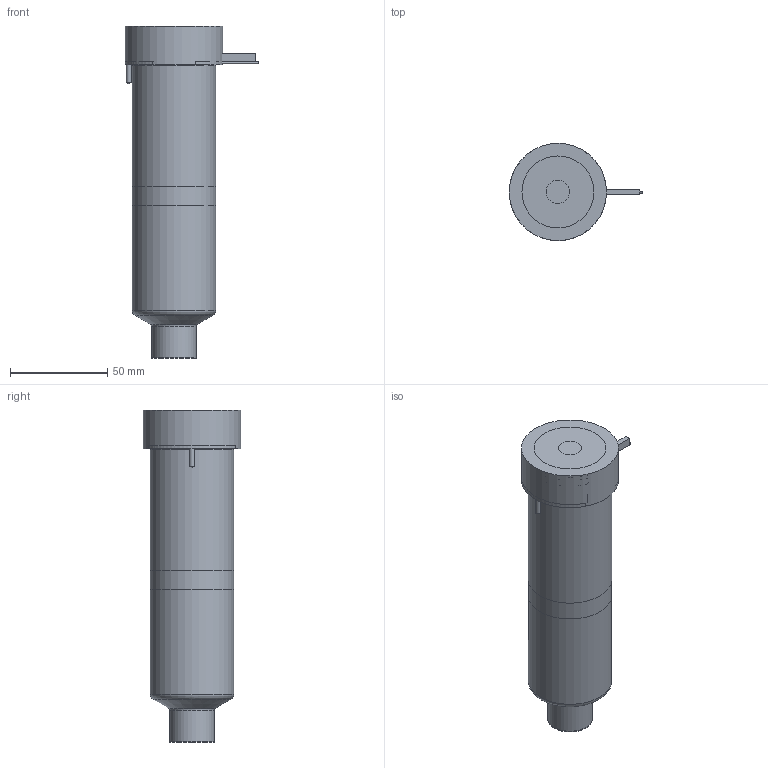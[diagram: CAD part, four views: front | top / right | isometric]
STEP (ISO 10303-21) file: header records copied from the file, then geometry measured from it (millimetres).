
FILE_DESCRIPTION(/* description */ (''),/* implementation_level */ '2;1');
FILE_NAME(/* name */ 'BXTSN-BXISN-BXOSN27145_250C_b',/* time_stamp */ '2007-01-25T15:53:02+13:00',/* author */ (''),/* organization */ (''),/* preprocessor_version */ 'ST-DEVELOPER v9',/* originating_system */ 'UGS - NX 4.0',/* authorisation */ '');
FILE_SCHEMA (('CONFIG_CONTROL_DESIGN'));
Length unit declared in the file: millimetre
Products named in the file (1): BXTSN-BXISN-BXOSN27145_250C_b
Bounding box: 68.6 x 50 x 170.7 mm (x, y, z)
Volume: 440563.3 mm3; surface area: 55106 mm2
Topology: 6 solids, 6 shells, 74 faces, 148 edges, 96 vertices
Faces by surface type: plane 33, cylinder 23, cone 9, torus 8, bspline 1
Full cylindrical faces by diameter (mm): 1 x3, 2 x1, 2.5 x2, 12 x1, 22.61 x1, 23.01 x2, 27.5 x1, 38.1 x1, 43 x2, 50 x1
Entity records: 1987 total; most frequent: CARTESIAN_POINT 481, DIRECTION 312, ORIENTED_EDGE 230, AXIS2_PLACEMENT_3D 137, EDGE_CURVE 115, EDGE_LOOP 110, VERTEX_POINT 90, ADVANCED_FACE 74
